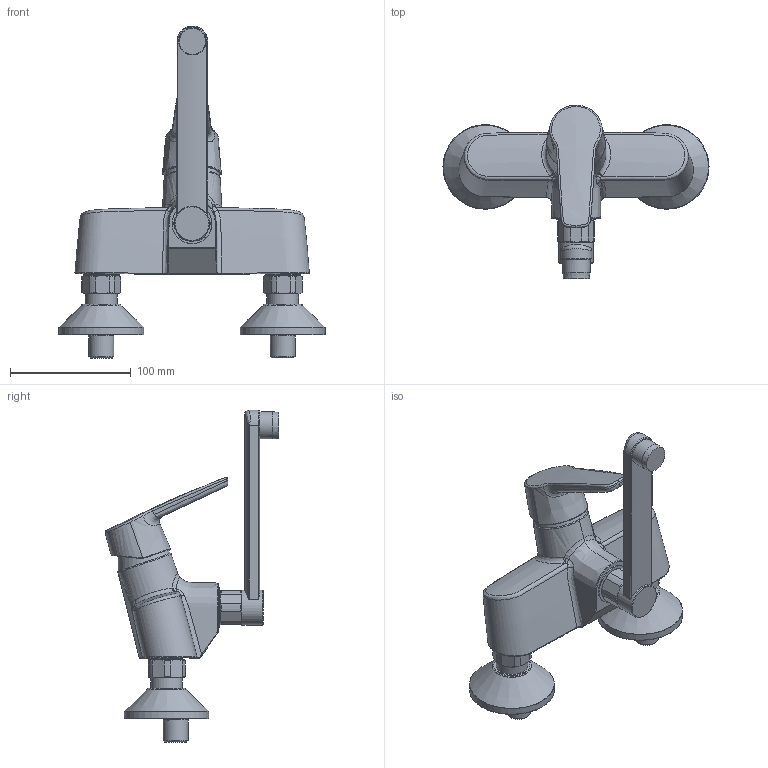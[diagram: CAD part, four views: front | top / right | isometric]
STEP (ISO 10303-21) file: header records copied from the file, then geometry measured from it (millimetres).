
FILE_DESCRIPTION (( 'STEP AP203' ), '1' );
FILE_NAME ('3915Y(2016)+51522193.STEP', '2017-03-09T05:50:48', ( '' ), ( '' ), 'SwSTEP 2.0', 'SolidWorks 2016', '' );
FILE_SCHEMA (( 'CONFIG_CONTROL_DESIGN' ));
Length unit declared in the file: millimetre
Products named in the file (1): 3915Y(2016)+51522193
Bounding box: 220 x 143.73 x 274.57 mm (x, y, z)
Volume: 715714.4 mm3; surface area: 110015.9 mm2
Topology: 1 solids, 3 shells, 255 faces, 601 edges, 376 vertices
Faces by surface type: bspline 84, plane 59, cone 55, cylinder 52, torus 5
Full cylindrical faces by diameter (mm): 12.5 x2, 20.6 x2, 21.2 x2, 22.471 x1, 24 x2, 26 x2, 26.2 x4, 26.441 x1, 29 x3, 33 x1, 69.2 x2, 70 x2
Entity records: 32692 total; most frequent: CARTESIAN_POINT 27908, ORIENTED_EDGE 1046, DIRECTION 743, EDGE_CURVE 523, VERTEX_POINT 350, AXIS2_PLACEMENT_3D 343, EDGE_LOOP 331, B_SPLINE_CURVE_WITH_KNOTS 291
